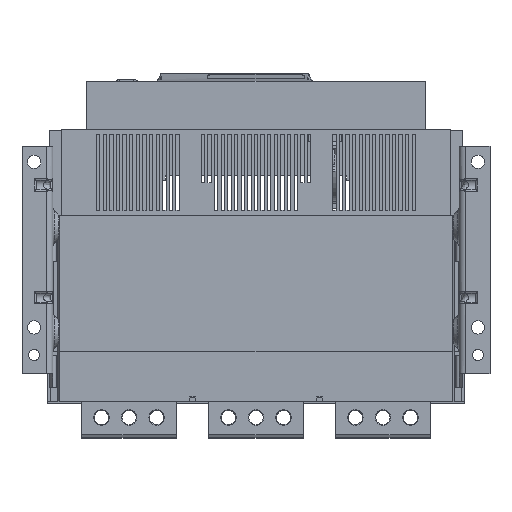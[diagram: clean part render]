
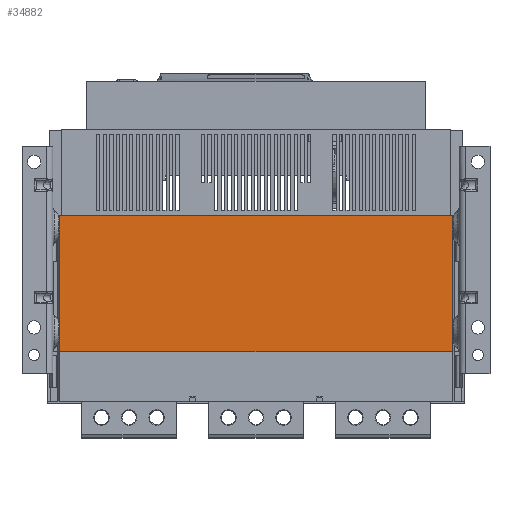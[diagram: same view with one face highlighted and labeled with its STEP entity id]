
A CAD part, top view. The second image highlights one B-rep face of the part: STEP entity #34882.
In plain terms, the highlighted planar face has unit normal (0, 0, 1).
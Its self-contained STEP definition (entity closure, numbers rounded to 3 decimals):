
#1088=DIRECTION('',(1.,0.,0.));
#1089=VECTOR('',#1088,356.);
#1090=CARTESIAN_POINT('',(-178.,0.,150.));
#1091=LINE('',#1090,#1089);
#2087=DIRECTION('',(1.,0.,0.));
#2088=VECTOR('',#2087,356.);
#2089=CARTESIAN_POINT('',(-178.,123.,150.));
#2090=LINE('',#2089,#2088);
#7656=DIRECTION('',(0.,1.,0.));
#7657=VECTOR('',#7656,123.);
#7658=CARTESIAN_POINT('',(178.,0.,150.));
#7659=LINE('',#7658,#7657);
#16695=DIRECTION('',(0.,1.,0.));
#16696=VECTOR('',#16695,123.);
#16697=CARTESIAN_POINT('',(-178.,0.,150.));
#16698=LINE('',#16697,#16696);
#18328=CARTESIAN_POINT('',(-178.,0.,150.));
#18329=VERTEX_POINT('',#18328);
#18330=CARTESIAN_POINT('',(178.,0.,150.));
#18331=VERTEX_POINT('',#18330);
#18344=CARTESIAN_POINT('',(-178.,123.,150.));
#18345=CARTESIAN_POINT('',(178.,123.,150.));
#18346=VERTEX_POINT('',#18344);
#18347=VERTEX_POINT('',#18345);
#34871=CARTESIAN_POINT('',(-178.,0.,150.));
#34872=DIRECTION('',(0.,0.,1.));
#34873=DIRECTION('',(1.,0.,0.));
#34874=AXIS2_PLACEMENT_3D('',#34871,#34872,#34873);
#34875=PLANE('',#34874);
#34876=ORIENTED_EDGE('',*,*,#22060,.F.);
#34877=ORIENTED_EDGE('',*,*,#26991,.T.);
#34878=ORIENTED_EDGE('',*,*,#22563,.T.);
#34879=ORIENTED_EDGE('',*,*,#26379,.F.);
#34880=EDGE_LOOP('',(#34876,#34877,#34878,#34879));
#34881=FACE_OUTER_BOUND('',#34880,.F.);
#34882=ADVANCED_FACE('',(#34881),#34875,.T.);
#22060=EDGE_CURVE('',#18329,#18331,#1091,.T.);
#22563=EDGE_CURVE('',#18346,#18347,#2090,.T.);
#26379=EDGE_CURVE('',#18331,#18347,#7659,.T.);
#26991=EDGE_CURVE('',#18329,#18346,#16698,.T.);
